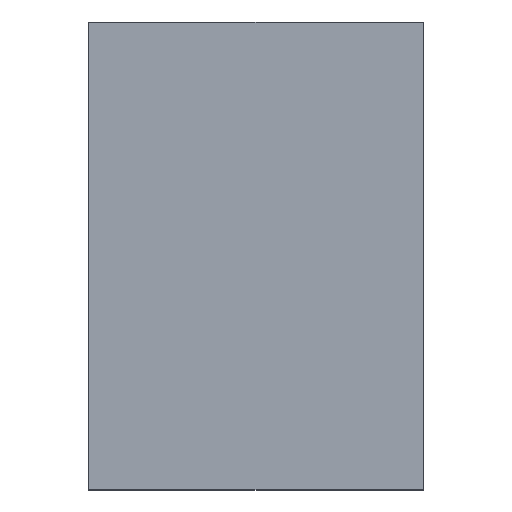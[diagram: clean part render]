
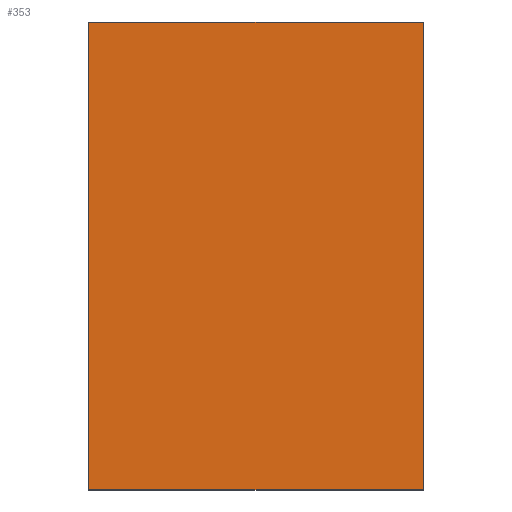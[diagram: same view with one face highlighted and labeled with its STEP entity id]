
A CAD part, top view. The second image highlights one B-rep face of the part: STEP entity #353.
In plain terms, the highlighted planar face has unit normal (0, 0, 1).
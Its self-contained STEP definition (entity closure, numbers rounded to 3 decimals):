
#39 = VERTEX_POINT('',#40);
#40 = CARTESIAN_POINT('',(-4.7,7.,3.));
#47 = PLANE('',#48);
#48 = AXIS2_PLACEMENT_3D('',#49,#50,#51);
#49 = CARTESIAN_POINT('',(-4.7,7.,0.));
#50 = DIRECTION('',(0.,1.,0.));
#51 = DIRECTION('',(1.,0.,0.));
#59 = PLANE('',#60);
#60 = AXIS2_PLACEMENT_3D('',#61,#62,#63);
#61 = CARTESIAN_POINT('',(-4.7,-7.,0.));
#62 = DIRECTION('',(-1.,0.,0.));
#63 = DIRECTION('',(0.,1.,0.));
#71 = EDGE_CURVE('',#39,#72,#74,.T.);
#72 = VERTEX_POINT('',#73);
#73 = CARTESIAN_POINT('',(5.3,7.,3.));
#74 = SURFACE_CURVE('',#75,(#79,#86),.PCURVE_S1.);
#75 = LINE('',#76,#77);
#76 = CARTESIAN_POINT('',(-4.7,7.,3.));
#77 = VECTOR('',#78,1.);
#78 = DIRECTION('',(1.,0.,0.));
#79 = PCURVE('',#47,#80);
#80 = DEFINITIONAL_REPRESENTATION('',(#81),#85);
#81 = LINE('',#82,#83);
#82 = CARTESIAN_POINT('',(0.,-3.));
#83 = VECTOR('',#84,1.);
#84 = DIRECTION('',(1.,0.));
#85 = ( GEOMETRIC_REPRESENTATION_CONTEXT(2) 
PARAMETRIC_REPRESENTATION_CONTEXT() REPRESENTATION_CONTEXT('2D SPACE',''
  ) );
#86 = PCURVE('',#87,#92);
#87 = PLANE('',#88);
#88 = AXIS2_PLACEMENT_3D('',#89,#90,#91);
#89 = CARTESIAN_POINT('',(0.3,0.,3.));
#90 = DIRECTION('',(-0.,-0.,-1.));
#91 = DIRECTION('',(-1.,0.,0.));
#92 = DEFINITIONAL_REPRESENTATION('',(#93),#97);
#93 = LINE('',#94,#95);
#94 = CARTESIAN_POINT('',(5.,7.));
#95 = VECTOR('',#96,1.);
#96 = DIRECTION('',(-1.,0.));
#97 = ( GEOMETRIC_REPRESENTATION_CONTEXT(2) 
PARAMETRIC_REPRESENTATION_CONTEXT() REPRESENTATION_CONTEXT('2D SPACE',''
  ) );
#115 = PLANE('',#116);
#116 = AXIS2_PLACEMENT_3D('',#117,#118,#119);
#117 = CARTESIAN_POINT('',(5.3,7.,0.));
#118 = DIRECTION('',(1.,0.,-0.));
#119 = DIRECTION('',(0.,-1.,0.));
#157 = EDGE_CURVE('',#72,#158,#160,.T.);
#158 = VERTEX_POINT('',#159);
#159 = CARTESIAN_POINT('',(5.3,-7.,3.));
#160 = SURFACE_CURVE('',#161,(#165,#172),.PCURVE_S1.);
#161 = LINE('',#162,#163);
#162 = CARTESIAN_POINT('',(5.3,7.,3.));
#163 = VECTOR('',#164,1.);
#164 = DIRECTION('',(0.,-1.,0.));
#165 = PCURVE('',#115,#166);
#166 = DEFINITIONAL_REPRESENTATION('',(#167),#171);
#167 = LINE('',#168,#169);
#168 = CARTESIAN_POINT('',(0.,-3.));
#169 = VECTOR('',#170,1.);
#170 = DIRECTION('',(1.,0.));
#171 = ( GEOMETRIC_REPRESENTATION_CONTEXT(2) 
PARAMETRIC_REPRESENTATION_CONTEXT() REPRESENTATION_CONTEXT('2D SPACE',''
  ) );
#172 = PCURVE('',#87,#173);
#173 = DEFINITIONAL_REPRESENTATION('',(#174),#178);
#174 = LINE('',#175,#176);
#175 = CARTESIAN_POINT('',(-5.,7.));
#176 = VECTOR('',#177,1.);
#177 = DIRECTION('',(0.,-1.));
#178 = ( GEOMETRIC_REPRESENTATION_CONTEXT(2) 
PARAMETRIC_REPRESENTATION_CONTEXT() REPRESENTATION_CONTEXT('2D SPACE',''
  ) );
#196 = PLANE('',#197);
#197 = AXIS2_PLACEMENT_3D('',#198,#199,#200);
#198 = CARTESIAN_POINT('',(5.3,-7.,0.));
#199 = DIRECTION('',(0.,-1.,0.));
#200 = DIRECTION('',(-1.,0.,0.));
#233 = EDGE_CURVE('',#158,#234,#236,.T.);
#234 = VERTEX_POINT('',#235);
#235 = CARTESIAN_POINT('',(-4.7,-7.,3.));
#236 = SURFACE_CURVE('',#237,(#241,#248),.PCURVE_S1.);
#237 = LINE('',#238,#239);
#238 = CARTESIAN_POINT('',(5.3,-7.,3.));
#239 = VECTOR('',#240,1.);
#240 = DIRECTION('',(-1.,0.,0.));
#241 = PCURVE('',#196,#242);
#242 = DEFINITIONAL_REPRESENTATION('',(#243),#247);
#243 = LINE('',#244,#245);
#244 = CARTESIAN_POINT('',(0.,-3.));
#245 = VECTOR('',#246,1.);
#246 = DIRECTION('',(1.,0.));
#247 = ( GEOMETRIC_REPRESENTATION_CONTEXT(2) 
PARAMETRIC_REPRESENTATION_CONTEXT() REPRESENTATION_CONTEXT('2D SPACE',''
  ) );
#248 = PCURVE('',#87,#249);
#249 = DEFINITIONAL_REPRESENTATION('',(#250),#254);
#250 = LINE('',#251,#252);
#251 = CARTESIAN_POINT('',(-5.,-7.));
#252 = VECTOR('',#253,1.);
#253 = DIRECTION('',(1.,0.));
#254 = ( GEOMETRIC_REPRESENTATION_CONTEXT(2) 
PARAMETRIC_REPRESENTATION_CONTEXT() REPRESENTATION_CONTEXT('2D SPACE',''
  ) );
#304 = EDGE_CURVE('',#234,#39,#305,.T.);
#305 = SURFACE_CURVE('',#306,(#310,#317),.PCURVE_S1.);
#306 = LINE('',#307,#308);
#307 = CARTESIAN_POINT('',(-4.7,-7.,3.));
#308 = VECTOR('',#309,1.);
#309 = DIRECTION('',(0.,1.,0.));
#310 = PCURVE('',#59,#311);
#311 = DEFINITIONAL_REPRESENTATION('',(#312),#316);
#312 = LINE('',#313,#314);
#313 = CARTESIAN_POINT('',(0.,-3.));
#314 = VECTOR('',#315,1.);
#315 = DIRECTION('',(1.,0.));
#316 = ( GEOMETRIC_REPRESENTATION_CONTEXT(2) 
PARAMETRIC_REPRESENTATION_CONTEXT() REPRESENTATION_CONTEXT('2D SPACE',''
  ) );
#317 = PCURVE('',#87,#318);
#318 = DEFINITIONAL_REPRESENTATION('',(#319),#323);
#319 = LINE('',#320,#321);
#320 = CARTESIAN_POINT('',(5.,-7.));
#321 = VECTOR('',#322,1.);
#322 = DIRECTION('',(0.,1.));
#323 = ( GEOMETRIC_REPRESENTATION_CONTEXT(2) 
PARAMETRIC_REPRESENTATION_CONTEXT() REPRESENTATION_CONTEXT('2D SPACE',''
  ) );
#353 = ADVANCED_FACE('',(#354),#87,.F.);
#354 = FACE_BOUND('',#355,.F.);
#355 = EDGE_LOOP('',(#356,#357,#358,#359));
#356 = ORIENTED_EDGE('',*,*,#71,.T.);
#357 = ORIENTED_EDGE('',*,*,#157,.T.);
#358 = ORIENTED_EDGE('',*,*,#233,.T.);
#359 = ORIENTED_EDGE('',*,*,#304,.T.);
